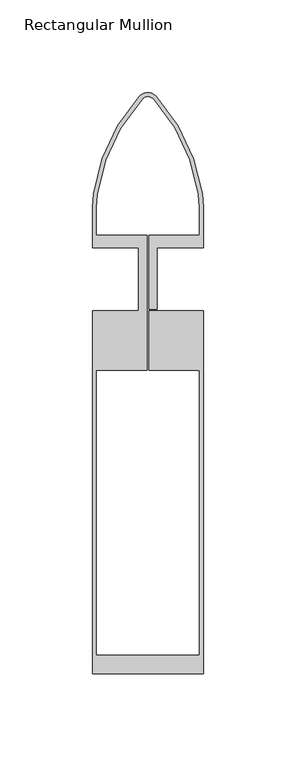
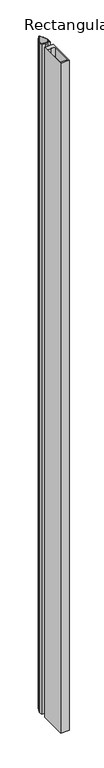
"""IFC4 building model written with IfcOpenShell, lengths in millimetres: member geometry, Rectangular Mullion : FMO60-200-S...FM60-80."""

from ifc_helpers import new_model, si_unit, frame, origin, place, context, project, spatial, polyline, circle_curve, source, transform, mapped, element, save
from ifc_brep_helpers import plane_surface, cylinder_surface, revolved_surface, advanced_brep


def rectangular_mullion_3a4dfd3a(model_context):
    return source(origin(), model_context, "Body", "AdvancedBrep", [
        advanced_brep(
        [(0.0, 98.8502996, 0.0), (3.1488975, 97.3169663, 0.0), (27.4828185, 45.9405476, 0.0), (28.0, 38.9133183, 0.0), (28.0000412, 23.8476589, 0.0), (0.5, 23.8476589, 0.0), (0.5, -16.2, 0.0), (5.0, -16.2, 0.0), (5.0, 17.0, 0.0), (30.0, 17.0, 0.0), (30.0, 38.9133183, 0.0), (29.4612692, 46.2333488, 0.0), (4.7233463, 98.6502996, 0.0), (0.0, 100.9502996, 0.0), (-4.7233463, 98.6502996, 0.0), (-29.4612692, 46.2333488, 0.0), (-30.0, 38.9133183, 0.0), (-30.0, 17.0, 0.0), (-5.0, 17.0, 0.0), (-5.0, -17.0, 0.0), (-30.0, -17.0, 0.0), (-30.0, -213.009342, 0.0), (30.0, -213.009342, 0.0), (30.0, -17.0, 0.0), (0.5, -17.0, 0.0), (0.5, -49.0034642, 0.0), (28.0, -49.0034642, 0.0), (28.0, -203.009342, 0.0), (-28.0, -203.009342, 0.0), (-28.0, -49.0034642, 0.0), (-0.5, -49.0034642, 0.0), (-0.5, 23.8476589, 0.0), (-28.0, 23.8476589, 0.0), (-28.0, 38.8133183, 0.0), (-27.4828185, 45.8405476, 0.0), (-3.239654, 97.2091594, 0.0), (0.0, 98.8502996, -5000.0), (-3.1488975, 97.3169663, -5000.0), (-27.4828185, 45.8405476, -5000.0), (-28.0, 38.8133183, -5000.0), (-28.0, 23.8476589, -5000.0), (-0.5, 23.8476589, -5000.0), (-0.5, -49.0034642, -5000.0), (-28.0, -49.0034642, -5000.0), (-28.0, -203.009342, -5000.0), (28.0, -203.009342, -5000.0), (28.0, -49.0034642, -5000.0), (0.5, -49.0034642, -5000.0), (0.5, -17.0, -5000.0), (30.0, -17.0, -5000.0), (30.0, -213.009342, -5000.0), (-30.0, -213.009342, -5000.0), (-30.0, -17.0, -5000.0), (-5.0, -17.0, -5000.0), (-5.0, 17.0, -5000.0), (-30.0, 17.0, -5000.0), (-30.0, 38.9133183, -5000.0), (-29.4612692, 46.2333488, -5000.0), (-4.7233463, 98.6502996, -5000.0), (0.0, 100.9502996, -5000.0), (4.7233463, 98.6502996, -5000.0), (29.4612692, 46.2333488, -5000.0), (30.0, 38.9133183, -5000.0), (30.0, 17.0, -5000.0), (5.0, 17.0, -5000.0), (5.0, -16.2, -5000.0), (0.5, -16.2, -5000.0), (0.5, 23.8476589, -5000.0), (28.0000412, 23.8476589, -5000.0), (28.0000412, 38.9133183, -5000.0), (27.4828185, 45.9405476, -5000.0), (3.239654, 97.3091594, -5000.0)],
        [
            (0, 1, circle_curve(frame((0.0, 94.8502996, 0.0), z_axis=(0.0, 0.0, -1.0), x_axis=(-6.476141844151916e-11, 1.0, 0.0)), 4.0)),
            (1, 2, circle_curve(frame((-69.4612692, 31.5932879, 0.0), z_axis=(0.0, 0.0, -1.0), x_axis=(0.9892253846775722, 0.1464006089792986, 0.0)), 98.0)),
            (2, 3, circle_curve(frame((-20.0, 38.9133183, 0.0), z_axis=(0.0, 0.0, -1.0), x_axis=(1.0, 0.0, 0.0)), 48.0)),
            (3, 4),
            (4, 5),
            (5, 6),
            (6, 7),
            (7, 8),
            (8, 9),
            (9, 10),
            (10, 11, circle_curve(frame((-20.0, 38.9133183, 0.0), z_axis=(0.0, 0.0, 1.0), x_axis=(0.9892253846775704, 0.1464006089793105, 0.0)), 50.0)),
            (11, 12, circle_curve(frame((-69.4612692, 31.5932879, 0.0), z_axis=(0.0, 0.0, 1.0), x_axis=(0.7418461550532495, 0.6705701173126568, 0.0)), 100.0)),
            (12, 13, circle_curve(frame((0.0, 94.9502996, 0.0), z_axis=(0.0, 0.0, 1.0), x_axis=(-4.3209287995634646e-11, 1.0, 0.0)), 6.0)),
            (13, 14, circle_curve(frame((0.0, 94.9502996, 0.0), z_axis=(0.0, 0.0, 1.0), x_axis=(-0.7872243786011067, 0.6166666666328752, 0.0)), 6.0)),
            (14, 15, circle_curve(frame((69.4612692, 31.5932879, 0.0), z_axis=(0.0, 0.0, 1.0), x_axis=(-0.9892253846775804, 0.14640060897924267, 0.0)), 100.0)),
            (15, 16, circle_curve(frame((20.0, 38.9133183, 0.0), z_axis=(0.0, 0.0, 1.0), x_axis=(-1.0, 0.0, 0.0)), 50.0)),
            (16, 17),
            (17, 18),
            (18, 19),
            (19, 20),
            (20, 21),
            (21, 22),
            (22, 23),
            (23, 24),
            (24, 25),
            (25, 26),
            (26, 27),
            (27, 28),
            (28, 29),
            (29, 30),
            (30, 31),
            (31, 32),
            (32, 33),
            (33, 34, circle_curve(frame((20.0, 38.8133183, 0.0), z_axis=(0.0, 0.0, -1.0), x_axis=(-1.0, 0.0, 0.0)), 48.0)),
            (34, 35, circle_curve(frame((69.4612692, 31.4932879, 0.0), z_axis=(0.0, 0.0, -1.0), x_axis=(-0.9892253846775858, 0.14640060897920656, 0.0)), 98.0)),
            (35, 0, circle_curve(frame((0.0, 94.8502996, 0.0), z_axis=(0.0, 0.0, -1.0), x_axis=(-0.7872243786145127, 0.6166666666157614, 0.0)), 4.0)),
            (36, 37, circle_curve(frame((0.0, 94.8502996, -5000.0), z_axis=(0.0, 0.0, 1.0), x_axis=(-0.7872243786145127, 0.6166666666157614, 0.0)), 4.0)),
            (37, 38, circle_curve(frame((69.4612692, 31.4932879, -5000.0), z_axis=(0.0, 0.0, 1.0), x_axis=(-0.9892253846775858, 0.14640060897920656, 0.0)), 98.0)),
            (38, 39, circle_curve(frame((20.0, 38.8133183, -5000.0), z_axis=(0.0, 0.0, 1.0), x_axis=(-1.0, 0.0, 0.0)), 48.0)),
            (39, 40),
            (40, 41),
            (41, 42),
            (42, 43),
            (43, 44),
            (44, 45),
            (45, 46),
            (46, 47),
            (47, 48),
            (48, 49),
            (49, 50),
            (50, 51),
            (51, 52),
            (52, 53),
            (53, 54),
            (54, 55),
            (55, 56),
            (56, 57, circle_curve(frame((20.0, 38.9133183, -5000.0), z_axis=(0.0, 0.0, -1.0), x_axis=(-1.0, 0.0, 0.0)), 50.0)),
            (57, 58, circle_curve(frame((69.4612692, 31.5932879, -5000.0), z_axis=(0.0, 0.0, -1.0), x_axis=(-0.9892253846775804, 0.14640060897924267, 0.0)), 100.0)),
            (58, 59, circle_curve(frame((0.0, 94.9502996, -5000.0), z_axis=(0.0, 0.0, -1.0), x_axis=(-0.7872243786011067, 0.6166666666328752, 0.0)), 6.0)),
            (59, 60, circle_curve(frame((0.0, 94.9502996, -5000.0), z_axis=(0.0, 0.0, -1.0), x_axis=(-4.3209287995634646e-11, 1.0, 0.0)), 6.0)),
            (60, 61, circle_curve(frame((-69.4612692, 31.5932879, -5000.0), z_axis=(0.0, 0.0, -1.0), x_axis=(0.7418461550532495, 0.6705701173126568, 0.0)), 100.0)),
            (61, 62, circle_curve(frame((-20.0, 38.9133183, -5000.0), z_axis=(0.0, 0.0, -1.0), x_axis=(0.9892253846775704, 0.1464006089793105, 0.0)), 50.0)),
            (62, 63),
            (63, 64),
            (64, 65),
            (65, 66),
            (66, 67),
            (67, 68),
            (68, 69),
            (69, 70, circle_curve(frame((-20.0, 38.9133183, -5000.0), z_axis=(0.0, 0.0, 1.0), x_axis=(1.0, 0.0, 0.0)), 48.0)),
            (70, 71, circle_curve(frame((-69.4612692, 31.5932879, -5000.0), z_axis=(0.0, 0.0, 1.0), x_axis=(0.9892253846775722, 0.1464006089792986, 0.0)), 98.0)),
            (71, 36, circle_curve(frame((0.0, 94.8502996, -5000.0), z_axis=(0.0, 0.0, 1.0), x_axis=(-6.476141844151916e-11, 1.0, 0.0)), 4.0)),
            (19, 53),
            (52, 20),
            (51, 21),
            (50, 22),
            (49, 23),
            (48, 24),
            (47, 25),
            (46, 26),
            (45, 27),
            (44, 28),
            (43, 29),
            (42, 30),
            (41, 31),
            (40, 32),
            (39, 33),
            (1, 71),
            (70, 2),
            (69, 3),
            (10, 62),
            (61, 11),
            (60, 12),
            (59, 13),
            (58, 14),
            (57, 15),
            (56, 16),
            (34, 38),
            (37, 35),
            (0, 36),
            (68, 4),
            (67, 5),
            (66, 6),
            (65, 7),
            (64, 8),
            (63, 9),
            (55, 17),
            (54, 18),
        ],
        [
            plane_surface(frame((0.0, -215.111552, 0.0), z_axis=(0.0, 0.0, 1.0), x_axis=(-1.0, 0.0, 0.0))),
            plane_surface(frame((0.0, -215.111552, -5000.0), z_axis=(0.0, 0.0, -1.0), x_axis=(-1.0, 0.0, 0.0))),
            plane_surface(frame((-5.0, -17.0, 0.0), z_axis=(0.0, 1.0, 0.0), x_axis=(0.0, 0.0, -1.0))),
            plane_surface(frame((-30.0, -17.0, 0.0), z_axis=(-1.0, 0.0, 0.0), x_axis=(0.0, 0.0, -1.0))),
            plane_surface(frame((-30.0, -213.009342, 0.0), z_axis=(0.0, -1.0, 0.0), x_axis=(0.0, 0.0, -1.0))),
            plane_surface(frame((30.0, -213.009342, 0.0), z_axis=(1.0, 0.0, 0.0), x_axis=(0.0, 0.0, -1.0))),
            plane_surface(frame((30.0, -17.0, 0.0), z_axis=(0.0, 1.0, 0.0), x_axis=(0.0, 0.0, -1.0))),
            plane_surface(frame((0.5, -17.0, 0.0), z_axis=(-1.0, 0.0, 0.0), x_axis=(0.0, 0.0, -1.0))),
            plane_surface(frame((0.5, -49.0034642, 0.0), z_axis=(0.0, -1.0, 0.0), x_axis=(0.0, 0.0, -1.0))),
            plane_surface(frame((28.0, -49.0034642, 0.0), z_axis=(-1.0, 0.0, 0.0), x_axis=(0.0, 0.0, -1.0))),
            plane_surface(frame((28.0, -203.009342, 0.0), z_axis=(0.0, 1.0, 0.0), x_axis=(0.0, 0.0, -1.0))),
            plane_surface(frame((-28.0, -203.009342, 0.0), z_axis=(1.0, 0.0, 0.0), x_axis=(0.0, 0.0, -1.0))),
            plane_surface(frame((-28.0, -49.0034642, 0.0), z_axis=(0.0, -1.0, 0.0), x_axis=(0.0, 0.0, -1.0))),
            plane_surface(frame((-0.5, -49.0034642, 0.0), z_axis=(1.0, 0.0, 0.0), x_axis=(0.0, 0.0, -1.0))),
            plane_surface(frame((-0.5, 23.8476589, 0.0), z_axis=(0.0, 1.0, 0.0), x_axis=(0.0, 0.0, -1.0))),
            plane_surface(frame((-28.0, 23.8476589, 0.0), z_axis=(1.0, 0.0, 0.0), x_axis=(0.0, 0.0, -1.0))),
            revolved_surface(polyline([(27.482818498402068, 45.940547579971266, -5000.0), (27.482818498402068, 45.940547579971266, 0.0)]), (-69.4612692, 31.5932879, 0.0), (0.0, 0.0, -1.0)),
            revolved_surface(polyline([(28.0, 38.9133183, -5000.0), (28.0, 38.9133183, 0.0)]), (-20.0, 38.9133183, 0.0), (0.0, 0.0, -1.0)),
            cylinder_surface(frame((-20.0, 38.9133183, 0.0), z_axis=(0.0, 0.0, 1.0), x_axis=(0.9892253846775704, 0.1464006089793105, 0.0)), 50.0),
            cylinder_surface(frame((-69.4612692, 31.5932879, 0.0), z_axis=(0.0, 0.0, 1.0000000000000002), x_axis=(0.7418461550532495, 0.6705701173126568, 0.0)), 100.0),
            cylinder_surface(frame((0.0, 94.9502996, 0.0), z_axis=(0.0, 0.0, 1.0), x_axis=(-4.3209287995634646e-11, 1.0, 0.0)), 6.0),
            cylinder_surface(frame((0.0, 94.9502996, 0.0), z_axis=(0.0, 0.0, 1.0000000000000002), x_axis=(-0.7872243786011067, 0.6166666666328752, 0.0)), 6.0),
            cylinder_surface(frame((69.4612692, 31.5932879, 0.0), z_axis=(0.0, 0.0, 1.0), x_axis=(-0.9892253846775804, 0.14640060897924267, 0.0)), 100.0),
            cylinder_surface(frame((20.0, 38.9133183, 0.0), z_axis=(0.0, 0.0, 1.0), x_axis=(-1.0, 0.0, 0.0)), 50.0),
            revolved_surface(polyline([(-27.482818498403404, 45.84054757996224, -5000.000000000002), (-27.482818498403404, 45.84054757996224, 0.0)]), (69.4612692, 31.4932879, 0.0), (0.0, 0.0, -1.0000000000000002)),
            revolved_surface(polyline([(-28.0, 38.8133183, -5000.0), (-28.0, 38.8133183, 0.0)]), (20.0, 38.8133183, 0.0), (0.0, 0.0, -1.0)),
            revolved_surface(polyline([(-2.5904567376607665e-10, 98.8502996, -5000.0), (-2.5904567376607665e-10, 98.8502996, 0.0)]), (0.0, 94.8502996, 0.0), (0.0, 0.0, -1.0)),
            revolved_surface(polyline([(-3.1488975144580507, 97.31696626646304, -5000.000000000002), (-3.1488975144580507, 97.31696626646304, 0.0)]), (0.0, 94.8502996, 0.0), (0.0, 0.0, -1.0000000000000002)),
            plane_surface(frame((28.0000412, 38.9133183, 0.0), z_axis=(-1.0, 0.0, 0.0), x_axis=(0.0, 0.0, -1.0))),
            plane_surface(frame((28.0000412, 23.8476589, 0.0), z_axis=(0.0, 1.0, 0.0), x_axis=(0.0, 0.0, -1.0))),
            plane_surface(frame((0.5, 23.8476589, 0.0), z_axis=(-1.0, 0.0, 0.0), x_axis=(0.0, 0.0, -1.0))),
            plane_surface(frame((0.5, -16.2, 0.0), z_axis=(0.0, -1.0, 0.0), x_axis=(0.0, 0.0, -1.0))),
            plane_surface(frame((5.0, -16.2, 0.0), z_axis=(1.0, 0.0, 0.0), x_axis=(0.0, 0.0, -1.0))),
            plane_surface(frame((5.0, 17.0, 0.0), z_axis=(0.0, -1.0, 0.0), x_axis=(0.0, 0.0, -1.0))),
            plane_surface(frame((30.0, 17.0, 0.0), z_axis=(1.0, 0.0, 0.0), x_axis=(0.0, 0.0, -1.0))),
            plane_surface(frame((-30.0, 38.9133183, 0.0), z_axis=(-1.0, 0.0, 0.0), x_axis=(0.0, 0.0, -1.0))),
            plane_surface(frame((-30.0, 17.0, 0.0), z_axis=(0.0, -1.0, 0.0), x_axis=(0.0, 0.0, -1.0))),
            plane_surface(frame((-5.0, 17.0, 0.0), z_axis=(-1.0, 0.0, 0.0), x_axis=(0.0, 0.0, -1.0))),
        ],
        [
            (0, [[1, 2, 3, 4, 5, 6, 7, 8, 9, 10, 11, 12, 13, 14, 15, 16, 17, 18, 19, 20, 21, 22, 23, 24, 25, 26, 27, 28, 29, 30, 31, 32, 33, 34, 35, 36]]),
            (1, [[37, 38, 39, 40, 41, 42, 43, 44, 45, 46, 47, 48, 49, 50, 51, 52, 53, 54, 55, 56, 57, 58, 59, 60, 61, 62, 63, 64, 65, 66, 67, 68, 69, 70, 71, 72]]),
            (2, [[-20, 73, -53, 74]]),
            (3, [[-21, -74, -52, 75]]),
            (4, [[-22, -75, -51, 76]]),
            (5, [[-23, -76, -50, 77]]),
            (6, [[-24, -77, -49, 78]]),
            (7, [[-25, -78, -48, 79]]),
            (8, [[-26, -79, -47, 80]]),
            (9, [[-27, -80, -46, 81]]),
            (10, [[-28, -81, -45, 82]]),
            (11, [[-29, -82, -44, 83]]),
            (12, [[-30, -83, -43, 84]]),
            (13, [[-31, -84, -42, 85]]),
            (14, [[-32, -85, -41, 86]]),
            (15, [[-33, -86, -40, 87]]),
            (16, [[-2, 88, -71, 89]]),
            (17, [[-3, -89, -70, 90]]),
            (18, [[-11, 91, -62, 92]]),
            (19, [[-12, -92, -61, 93]]),
            (20, [[-13, -93, -60, 94]]),
            (21, [[-14, -94, -59, 95]]),
            (22, [[-15, -95, -58, 96]]),
            (23, [[-16, -96, -57, 97]]),
            (24, [[-35, 98, -38, 99]]),
            (25, [[-34, -87, -39, -98]]),
            (26, [[-1, 100, -72, -88]]),
            (27, [[-36, -99, -37, -100]]),
            (28, [[-4, -90, -69, 101]]),
            (29, [[-5, -101, -68, 102]]),
            (30, [[-6, -102, -67, 103]]),
            (31, [[-7, -103, -66, 104]]),
            (32, [[-8, -104, -65, 105]]),
            (33, [[-9, -105, -64, 106]]),
            (34, [[-10, -106, -63, -91]]),
            (35, [[-17, -97, -56, 107]]),
            (36, [[-18, -107, -55, 108]]),
            (37, [[-19, -108, -54, -73]]),
        ],
    ),
    ])


if __name__ == "__main__":
    model = new_model("IFC4")
    model_context = context("Model", 3, world=origin())
    ifc_project = project(units=[si_unit("LENGTHUNIT", "METRE", prefix="MILLI")], contexts=[model_context])
    site = spatial("IfcSite", under=ifc_project)
    building = spatial("IfcBuilding", under=site)
    placement = place(None, origin())
    rectangular_mullion_shape = rectangular_mullion_3a4dfd3a(model_context)
    element("IfcMember", 1, ObjectType="Rectangular Mullion : FMO60-200-S...FM60-80", at=placement, inside=building, context=model_context, shape_type="MappedRepresentation", body=[
        mapped(rectangular_mullion_shape, transform((0.0, 0.0, 0.0), x_axis=(1.0, 0.0, 0.0), y_axis=(0.0, 1.0, 0.0), z_axis=(0.0, 0.0, 1.0))),
    ])
    save(model, "model.ifc")
